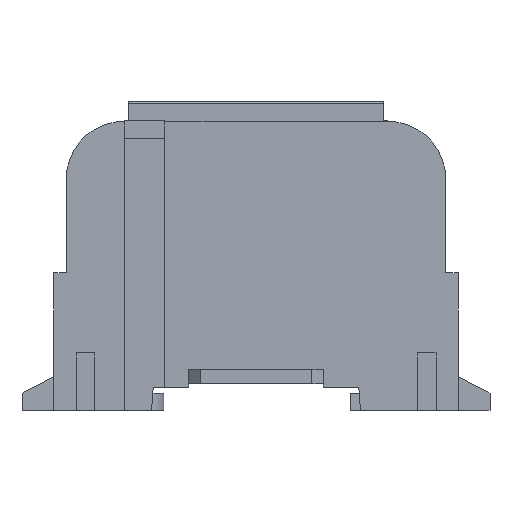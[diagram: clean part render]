
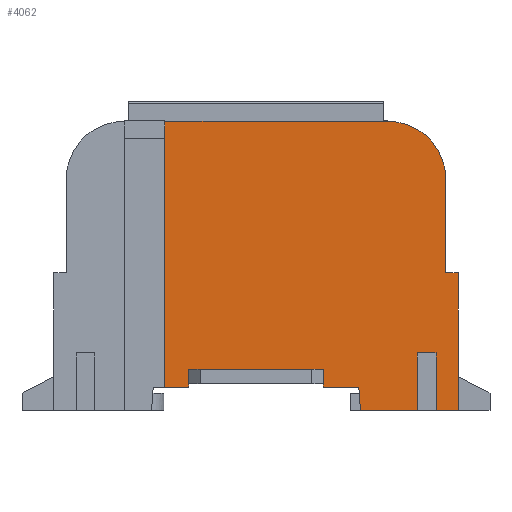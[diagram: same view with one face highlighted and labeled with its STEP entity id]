
A CAD part, front view. The second image highlights one B-rep face of the part: STEP entity #4062.
In plain terms, the highlighted planar face has unit normal (0, -1, 0).
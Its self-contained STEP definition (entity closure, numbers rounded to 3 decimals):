
#138=LINE('',#5902,#632);
#139=LINE('',#5904,#633);
#141=LINE('',#5908,#635);
#142=LINE('',#5910,#636);
#162=LINE('',#5953,#656);
#166=LINE('',#5965,#660);
#170=LINE('',#5972,#664);
#175=LINE('',#5981,#669);
#182=LINE('',#5995,#676);
#223=LINE('',#6095,#717);
#225=LINE('',#6098,#719);
#230=LINE('',#6108,#724);
#232=LINE('',#6117,#726);
#233=LINE('',#6119,#727);
#234=LINE('',#6121,#728);
#235=LINE('',#6123,#729);
#236=LINE('',#6127,#730);
#237=LINE('',#6128,#731);
#632=VECTOR('',#4742,1000.);
#633=VECTOR('',#4745,1000.);
#635=VECTOR('',#4749,1000.);
#636=VECTOR('',#4752,1000.);
#656=VECTOR('',#4782,1000.);
#660=VECTOR('',#4792,1000.);
#664=VECTOR('',#4798,1000.);
#669=VECTOR('',#4807,1000.);
#676=VECTOR('',#4816,1000.);
#717=VECTOR('',#4911,1000.);
#719=VECTOR('',#4915,1000.);
#724=VECTOR('',#4924,1000.);
#726=VECTOR('',#4934,1000.);
#727=VECTOR('',#4935,1000.);
#728=VECTOR('',#4936,1000.);
#729=VECTOR('',#4937,1000.);
#730=VECTOR('',#4940,1000.);
#731=VECTOR('',#4941,1000.);
#1352=ORIENTED_EDGE('',*,*,#2303,.T.);
#1353=ORIENTED_EDGE('',*,*,#2401,.T.);
#1354=ORIENTED_EDGE('',*,*,#2405,.F.);
#1355=ORIENTED_EDGE('',*,*,#2406,.F.);
#1356=ORIENTED_EDGE('',*,*,#2407,.T.);
#1357=ORIENTED_EDGE('',*,*,#2408,.T.);
#1358=ORIENTED_EDGE('',*,*,#2409,.T.);
#1359=ORIENTED_EDGE('',*,*,#2410,.F.);
#1360=ORIENTED_EDGE('',*,*,#2323,.T.);
#1361=ORIENTED_EDGE('',*,*,#2328,.F.);
#1362=ORIENTED_EDGE('',*,*,#2332,.F.);
#1363=ORIENTED_EDGE('',*,*,#2302,.F.);
#1364=ORIENTED_EDGE('',*,*,#2300,.F.);
#1365=ORIENTED_EDGE('',*,*,#2299,.F.);
#1366=ORIENTED_EDGE('',*,*,#2337,.F.);
#1367=ORIENTED_EDGE('',*,*,#2344,.F.);
#1368=ORIENTED_EDGE('',*,*,#2394,.F.);
#1369=ORIENTED_EDGE('',*,*,#2411,.F.);
#1370=ORIENTED_EDGE('',*,*,#2396,.T.);
#2299=EDGE_CURVE('',#2836,#2862,#138,.T.);
#2300=EDGE_CURVE('',#2862,#2863,#139,.T.);
#2302=EDGE_CURVE('',#2863,#2837,#141,.T.);
#2303=EDGE_CURVE('',#2864,#2865,#142,.T.);
#2323=EDGE_CURVE('',#2882,#2881,#162,.T.);
#2328=EDGE_CURVE('',#2886,#2881,#166,.T.);
#2332=EDGE_CURVE('',#2837,#2886,#170,.T.);
#2337=EDGE_CURVE('',#2891,#2836,#175,.T.);
#2344=EDGE_CURVE('',#2896,#2891,#182,.T.);
#2394=EDGE_CURVE('',#2928,#2896,#223,.T.);
#2396=EDGE_CURVE('',#2929,#2864,#225,.T.);
#2401=EDGE_CURVE('',#2865,#2932,#230,.T.);
#2405=EDGE_CURVE('',#2935,#2932,#232,.T.);
#2406=EDGE_CURVE('',#2936,#2935,#233,.T.);
#2407=EDGE_CURVE('',#2936,#2937,#234,.T.);
#2408=EDGE_CURVE('',#2937,#2938,#235,.T.);
#2409=EDGE_CURVE('',#2938,#2939,#3190,.F.);
#2410=EDGE_CURVE('',#2882,#2939,#236,.T.);
#2411=EDGE_CURVE('',#2929,#2928,#237,.T.);
#2836=VERTEX_POINT('',#5821);
#2837=VERTEX_POINT('',#5823);
#2862=VERTEX_POINT('',#5901);
#2863=VERTEX_POINT('',#5905);
#2864=VERTEX_POINT('',#5911);
#2865=VERTEX_POINT('',#5912);
#2881=VERTEX_POINT('',#5952);
#2882=VERTEX_POINT('',#5954);
#2886=VERTEX_POINT('',#5964);
#2891=VERTEX_POINT('',#5982);
#2896=VERTEX_POINT('',#5994);
#2928=VERTEX_POINT('',#6094);
#2929=VERTEX_POINT('',#6099);
#2932=VERTEX_POINT('',#6109);
#2935=VERTEX_POINT('',#6118);
#2936=VERTEX_POINT('',#6120);
#2937=VERTEX_POINT('',#6122);
#2938=VERTEX_POINT('',#6124);
#2939=VERTEX_POINT('',#6126);
#3190=CIRCLE('',#4345,10.);
#3317=EDGE_LOOP('',(#1352,#1353,#1354,#1355,#1356,#1357,#1358,#1359,#1360,
#1361,#1362,#1363,#1364,#1365,#1366,#1367,#1368,#1369,#1370));
#3601=FACE_BOUND('',#3317,.T.);
#3851=PLANE('',#4344);
#4062=ADVANCED_FACE('',(#3601),#3851,.F.);
#4344=AXIS2_PLACEMENT_3D('',#6116,#4932,#4933);
#4345=AXIS2_PLACEMENT_3D('',#6125,#4938,#4939);
#4742=DIRECTION('',(0.,0.,1.));
#4745=DIRECTION('',(-1.,0.,0.));
#4749=DIRECTION('',(0.,0.,-1.));
#4752=DIRECTION('',(1.,0.,0.));
#4782=DIRECTION('',(0.,0.,-1.));
#4792=DIRECTION('',(-1.,0.,0.));
#4798=DIRECTION('',(0.,0.,-1.));
#4807=DIRECTION('',(0.,0.,1.));
#4816=DIRECTION('',(-1.,0.,0.));
#4911=DIRECTION('',(-0.075,0.,0.997));
#4915=DIRECTION('',(0.,0.,1.));
#4924=DIRECTION('',(0.,0.,-1.));
#4932=DIRECTION('',(0.,1.,0.));
#4933=DIRECTION('',(0.,0.,1.));
#4934=DIRECTION('',(-1.,0.,0.));
#4935=DIRECTION('',(0.,0.,-1.));
#4936=DIRECTION('',(-1.,0.,0.));
#4937=DIRECTION('',(0.,0.,1.));
#4938=DIRECTION('',(0.,1.,0.));
#4939=DIRECTION('',(0.,0.,1.));
#4940=DIRECTION('',(1.,0.,0.));
#4941=DIRECTION('',(-1.,0.,0.));
#5821=CARTESIAN_POINT('',(11.625,-2.9,-20.311));
#5823=CARTESIAN_POINT('',(-11.625,-2.9,-20.311));
#5901=CARTESIAN_POINT('',(11.625,-2.9,-17.811));
#5902=CARTESIAN_POINT('',(11.625,-2.9,-20.311));
#5904=CARTESIAN_POINT('',(-11.625,-2.9,-17.811));
#5905=CARTESIAN_POINT('',(-11.625,-2.9,-17.811));
#5908=CARTESIAN_POINT('',(-11.625,-2.9,-17.811));
#5910=CARTESIAN_POINT('',(31.,-2.9,-15.));
#5911=CARTESIAN_POINT('',(27.8,-2.9,-15.));
#5912=CARTESIAN_POINT('',(31.,-2.9,-15.));
#5952=CARTESIAN_POINT('',(-15.7,-2.9,-20.911));
#5953=CARTESIAN_POINT('',(-15.7,-2.9,24.9));
#5954=CARTESIAN_POINT('',(-15.7,-2.9,24.9));
#5964=CARTESIAN_POINT('',(-11.625,-2.9,-20.911));
#5965=CARTESIAN_POINT('',(-17.7,-2.9,-20.911));
#5972=CARTESIAN_POINT('',(-11.625,-2.9,-20.911));
#5981=CARTESIAN_POINT('',(11.625,-2.9,-20.911));
#5982=CARTESIAN_POINT('',(11.625,-2.9,-20.911));
#5994=CARTESIAN_POINT('',(17.7,-2.9,-20.911));
#5995=CARTESIAN_POINT('',(11.625,-2.9,-20.911));
#6094=CARTESIAN_POINT('',(18.,-2.9,-24.9));
#6095=CARTESIAN_POINT('',(18.,-2.9,-24.9));
#6098=CARTESIAN_POINT('',(27.8,-2.9,-24.9));
#6099=CARTESIAN_POINT('',(27.8,-2.9,-24.9));
#6108=CARTESIAN_POINT('',(31.,-2.9,-24.9));
#6109=CARTESIAN_POINT('',(31.,-2.9,-24.9));
#6116=CARTESIAN_POINT('',(0.,-2.9,0.));
#6117=CARTESIAN_POINT('',(59.896,-2.9,-24.9));
#6118=CARTESIAN_POINT('',(34.8,-2.9,-24.9));
#6119=CARTESIAN_POINT('',(34.8,-2.9,48.714));
#6120=CARTESIAN_POINT('',(34.8,-2.9,-1.2));
#6121=CARTESIAN_POINT('',(34.8,-2.9,-1.2));
#6122=CARTESIAN_POINT('',(32.7,-2.9,-1.2));
#6123=CARTESIAN_POINT('',(32.7,-2.9,24.9));
#6124=CARTESIAN_POINT('',(32.7,-2.9,14.9));
#6125=CARTESIAN_POINT('',(22.7,-2.9,14.9));
#6126=CARTESIAN_POINT('',(22.7,-2.9,24.9));
#6127=CARTESIAN_POINT('',(-59.896,-2.9,24.9));
#6128=CARTESIAN_POINT('',(59.896,-2.9,-24.9));
